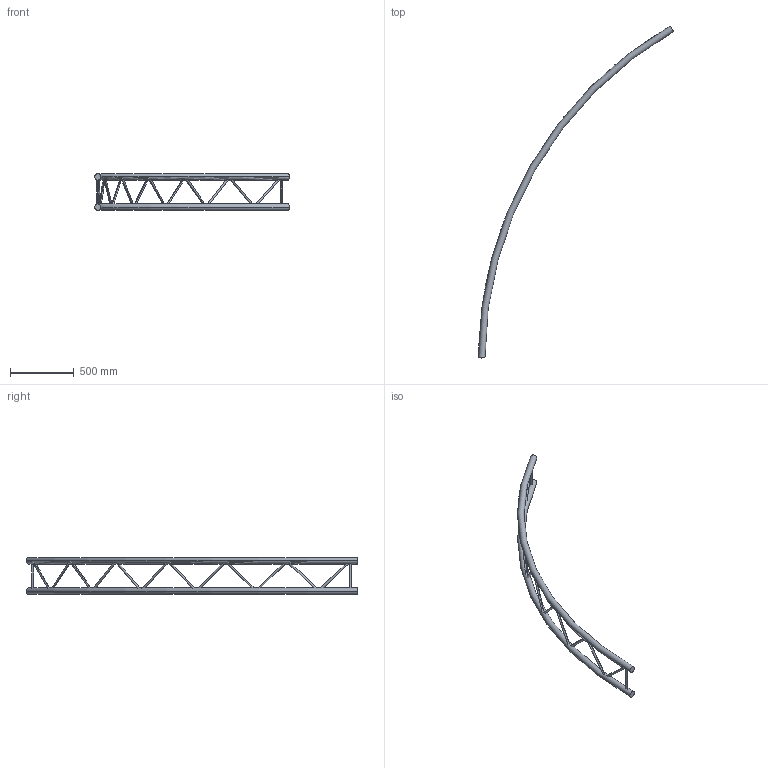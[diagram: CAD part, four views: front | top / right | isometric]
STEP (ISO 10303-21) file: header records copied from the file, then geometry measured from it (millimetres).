
FILE_DESCRIPTION (( 'STEP AP203' ), '1' );
FILE_NAME ('EXC29600V.STEP', '2009-10-26T09:19:13', ( 'CEDIA' ), ( 'CEDIA INDUSTRIE' ), 'SwSTEP 2.0', 'SolidWorks 2009', '' );
FILE_SCHEMA (( 'CONFIG_CONTROL_DESIGN' ));
Length unit declared in the file: millimetre
Products named in the file (1): EXC29600V
Bounding box: 1525 x 2598.08 x 287 mm (x, y, z)
Volume: 13059031.4 mm3; surface area: 1190288.6 mm2
Topology: 2 solids, 2 shells, 50 faces, 120 edges, 76 vertices
Faces by surface type: cylinder 28, plane 18, torus 4
Entity records: 2790 total; most frequent: CARTESIAN_POINT 1600, ORIENTED_EDGE 240, DIRECTION 216, EDGE_CURVE 120, AXIS2_PLACEMENT_3D 91, VERTEX_POINT 76, EDGE_LOOP 64, ADVANCED_FACE 50
